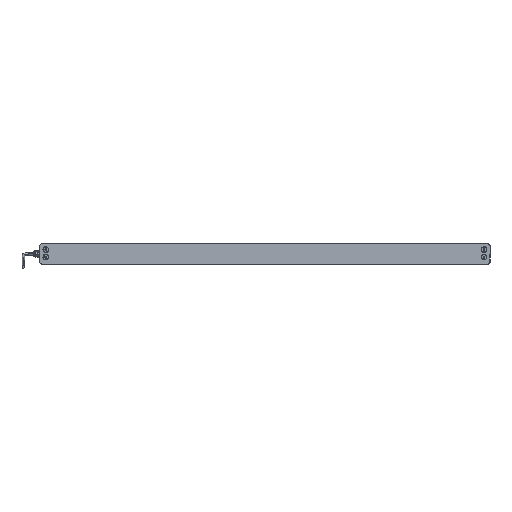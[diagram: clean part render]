
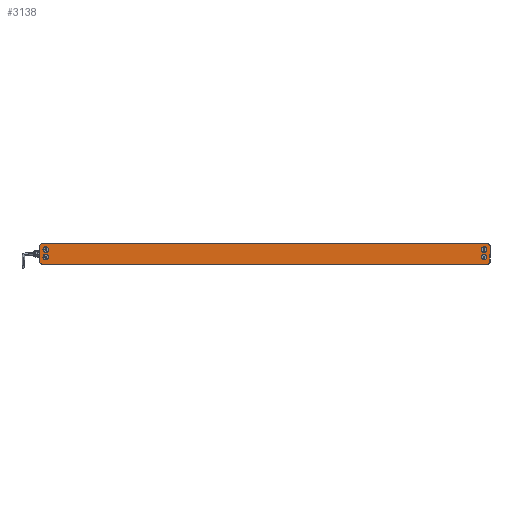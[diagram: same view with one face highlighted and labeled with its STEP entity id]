
A CAD part, left-side view. The second image highlights one B-rep face of the part: STEP entity #3138.
In plain terms, the highlighted planar face has unit normal (-1, 0, 0) as drawn and (0, 0, -1) by its records, which use the part's own axes.
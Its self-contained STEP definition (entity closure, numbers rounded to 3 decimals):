
#62 = VERTEX_POINT ( 'NONE', #16186 ) ;
#114 = CARTESIAN_POINT ( 'NONE',  ( -431.3, -6.3, 0. ) ) ;
#267 = EDGE_CURVE ( 'NONE', #11526, #16595, #3024, .T. ) ;
#511 = EDGE_CURVE ( 'NONE', #4001, #1930, #8359, .T. ) ;
#625 = EDGE_CURVE ( 'NONE', #14501, #6773, #2215, .T. ) ;
#700 = CARTESIAN_POINT ( 'NONE',  ( 436.9, -6.3, 0. ) ) ;
#813 = CARTESIAN_POINT ( 'NONE',  ( 439., 16., 0. ) ) ;
#848 = DIRECTION ( 'NONE',  ( 0., 1., 0. ) ) ;
#1029 = DIRECTION ( 'NONE',  ( -1., 0., 0. ) ) ;
#1325 = DIRECTION ( 'NONE',  ( 1., 0., 0. ) ) ;
#1553 = ORIENTED_EDGE ( 'NONE', *, *, #10247, .F. ) ;
#1802 = DIRECTION ( 'NONE',  ( -1., 0., 0. ) ) ;
#1930 = VERTEX_POINT ( 'NONE', #7038 ) ;
#1994 = CARTESIAN_POINT ( 'NONE',  ( 439., -20., 0. ) ) ;
#2096 = PLANE ( 'NONE',  #12843 ) ;
#2179 = VERTEX_POINT ( 'NONE', #3043 ) ;
#2215 = LINE ( 'NONE', #2448, #13490 ) ;
#2396 = CARTESIAN_POINT ( 'NONE',  ( 425.7, -6.3, 0. ) ) ;
#2419 = DIRECTION ( 'NONE',  ( 1., 0., 0. ) ) ;
#2448 = CARTESIAN_POINT ( 'NONE',  ( 443., -16., 0. ) ) ;
#2604 = ORIENTED_EDGE ( 'NONE', *, *, #4150, .F. ) ;
#2781 = CARTESIAN_POINT ( 'NONE',  ( 431.3, 8.5, 0. ) ) ;
#2973 = EDGE_CURVE ( 'NONE', #1930, #11526, #12295, .T. ) ;
#3024 = LINE ( 'NONE', #14866, #11020 ) ;
#3043 = CARTESIAN_POINT ( 'NONE',  ( 436.9, 8.5, 0. ) ) ;
#3138 = ADVANCED_FACE ( 'NONE', ( #9887, #4680, #12330, #11127, #9810 ), #2096, .T. ) ;
#3160 = ORIENTED_EDGE ( 'NONE', *, *, #3301, .F. ) ;
#3301 = EDGE_CURVE ( 'NONE', #5648, #12437, #6712, .T. ) ;
#3327 = CARTESIAN_POINT ( 'NONE',  ( -439., 20., 0. ) ) ;
#3347 = CIRCLE ( 'NONE', #14393, 5.6 ) ;
#3357 = EDGE_CURVE ( 'NONE', #5787, #8617, #5915, .T. ) ;
#3521 = VECTOR ( 'NONE', #1325, 1000. ) ;
#3524 = VERTEX_POINT ( 'NONE', #1994 ) ;
#3754 = DIRECTION ( 'NONE',  ( 0., 0., 1. ) ) ;
#3792 = EDGE_CURVE ( 'NONE', #62, #3524, #17045, .T. ) ;
#3829 = AXIS2_PLACEMENT_3D ( 'NONE', #11109, #11189, #7174 ) ;
#3931 = ORIENTED_EDGE ( 'NONE', *, *, #3357, .F. ) ;
#4001 = VERTEX_POINT ( 'NONE', #11866 ) ;
#4150 = EDGE_CURVE ( 'NONE', #3524, #14501, #5473, .T. ) ;
#4519 = DIRECTION ( 'NONE',  ( 0., 0., -1. ) ) ;
#4680 = FACE_BOUND ( 'NONE', #6191, .T. ) ;
#4705 = EDGE_CURVE ( 'NONE', #2179, #10638, #14860, .T. ) ;
#4814 = AXIS2_PLACEMENT_3D ( 'NONE', #9129, #5217, #10344 ) ;
#4976 = CARTESIAN_POINT ( 'NONE',  ( 425.7, 8.5, 0. ) ) ;
#5059 = DIRECTION ( 'NONE',  ( -1., 0., 0. ) ) ;
#5117 = CARTESIAN_POINT ( 'NONE',  ( -439., -16., 0. ) ) ;
#5210 = CARTESIAN_POINT ( 'NONE',  ( -439., -20., 0. ) ) ;
#5213 = AXIS2_PLACEMENT_3D ( 'NONE', #15475, #14273, #2419 ) ;
#5217 = DIRECTION ( 'NONE',  ( 0., 0., 1. ) ) ;
#5251 = EDGE_CURVE ( 'NONE', #12437, #5648, #10208, .T. ) ;
#5473 = CIRCLE ( 'NONE', #5213, 4. ) ;
#5648 = VERTEX_POINT ( 'NONE', #2396 ) ;
#5787 = VERTEX_POINT ( 'NONE', #9413 ) ;
#5915 = CIRCLE ( 'NONE', #6988, 5.6 ) ;
#6007 = EDGE_CURVE ( 'NONE', #6773, #4001, #12710, .T. ) ;
#6168 = CARTESIAN_POINT ( 'NONE',  ( 431.3, -6.3, 0. ) ) ;
#6191 = EDGE_LOOP ( 'NONE', ( #3160, #8208 ) ) ;
#6200 = DIRECTION ( 'NONE',  ( 0., 0., -1. ) ) ;
#6281 = EDGE_LOOP ( 'NONE', ( #1553, #13930 ) ) ;
#6448 = CARTESIAN_POINT ( 'NONE',  ( 431.3, 8.5, 0. ) ) ;
#6661 = CARTESIAN_POINT ( 'NONE',  ( -431.3, 8.5, 0. ) ) ;
#6712 = CIRCLE ( 'NONE', #16368, 5.6 ) ;
#6773 = VERTEX_POINT ( 'NONE', #7060 ) ;
#6988 = AXIS2_PLACEMENT_3D ( 'NONE', #6661, #12049, #9449 ) ;
#7038 = CARTESIAN_POINT ( 'NONE',  ( -439., 20., 0. ) ) ;
#7060 = CARTESIAN_POINT ( 'NONE',  ( 443., 16., 0. ) ) ;
#7174 = DIRECTION ( 'NONE',  ( -1., 0., 0. ) ) ;
#7267 = ORIENTED_EDGE ( 'NONE', *, *, #625, .F. ) ;
#7872 = ORIENTED_EDGE ( 'NONE', *, *, #267, .F. ) ;
#8146 = VERTEX_POINT ( 'NONE', #10591 ) ;
#8208 = ORIENTED_EDGE ( 'NONE', *, *, #5251, .F. ) ;
#8359 = LINE ( 'NONE', #3327, #16234 ) ;
#8368 = CARTESIAN_POINT ( 'NONE',  ( -431.3, -6.3, 0. ) ) ;
#8617 = VERTEX_POINT ( 'NONE', #9757 ) ;
#8851 = AXIS2_PLACEMENT_3D ( 'NONE', #6448, #6200, #10273 ) ;
#9125 = DIRECTION ( 'NONE',  ( 0., 0., -1. ) ) ;
#9129 = CARTESIAN_POINT ( 'NONE',  ( -439., 16., 0. ) ) ;
#9317 = ORIENTED_EDGE ( 'NONE', *, *, #6007, .F. ) ;
#9360 = AXIS2_PLACEMENT_3D ( 'NONE', #2781, #13361, #1029 ) ;
#9413 = CARTESIAN_POINT ( 'NONE',  ( -425.7, 8.5, 0. ) ) ;
#9418 = ORIENTED_EDGE ( 'NONE', *, *, #2973, .F. ) ;
#9449 = DIRECTION ( 'NONE',  ( -1., 0., 0. ) ) ;
#9632 = CARTESIAN_POINT ( 'NONE',  ( -443., -16., 0. ) ) ;
#9701 = DIRECTION ( 'NONE',  ( 0., -1., 0. ) ) ;
#9757 = CARTESIAN_POINT ( 'NONE',  ( -436.9, 8.5, 0. ) ) ;
#9810 = FACE_OUTER_BOUND ( 'NONE', #12565, .T. ) ;
#9833 = ORIENTED_EDGE ( 'NONE', *, *, #3792, .F. ) ;
#9849 = DIRECTION ( 'NONE',  ( 0., 0., -1. ) ) ;
#9887 = FACE_BOUND ( 'NONE', #16111, .T. ) ;
#9917 = DIRECTION ( 'NONE',  ( -1., 0., 0. ) ) ;
#9978 = DIRECTION ( 'NONE',  ( -1., 0., 0. ) ) ;
#10072 = CIRCLE ( 'NONE', #16401, 4. ) ;
#10208 = CIRCLE ( 'NONE', #3829, 5.6 ) ;
#10247 = EDGE_CURVE ( 'NONE', #8146, #10835, #14412, .T. ) ;
#10273 = DIRECTION ( 'NONE',  ( -1., 0., 0. ) ) ;
#10344 = DIRECTION ( 'NONE',  ( -1., 0., 0. ) ) ;
#10430 = CARTESIAN_POINT ( 'NONE',  ( 439., 16., 0. ) ) ;
#10591 = CARTESIAN_POINT ( 'NONE',  ( -436.9, -6.3, 0. ) ) ;
#10638 = VERTEX_POINT ( 'NONE', #4976 ) ;
#10658 = EDGE_CURVE ( 'NONE', #10638, #2179, #16276, .T. ) ;
#10762 = CARTESIAN_POINT ( 'NONE',  ( -431.3, 8.5, 0. ) ) ;
#10835 = VERTEX_POINT ( 'NONE', #11629 ) ;
#11020 = VECTOR ( 'NONE', #9701, 1000. ) ;
#11064 = ORIENTED_EDGE ( 'NONE', *, *, #10658, .F. ) ;
#11109 = CARTESIAN_POINT ( 'NONE',  ( 431.3, -6.3, 0. ) ) ;
#11127 = FACE_BOUND ( 'NONE', #6281, .T. ) ;
#11189 = DIRECTION ( 'NONE',  ( 0., 0., -1. ) ) ;
#11399 = AXIS2_PLACEMENT_3D ( 'NONE', #114, #15570, #15821 ) ;
#11456 = DIRECTION ( 'NONE',  ( -1., 0., 0. ) ) ;
#11526 = VERTEX_POINT ( 'NONE', #15539 ) ;
#11629 = CARTESIAN_POINT ( 'NONE',  ( -425.7, -6.3, 0. ) ) ;
#11866 = CARTESIAN_POINT ( 'NONE',  ( 439., 20., 0. ) ) ;
#12049 = DIRECTION ( 'NONE',  ( 0., 0., -1. ) ) ;
#12295 = CIRCLE ( 'NONE', #4814, 4. ) ;
#12330 = FACE_BOUND ( 'NONE', #14561, .T. ) ;
#12437 = VERTEX_POINT ( 'NONE', #700 ) ;
#12565 = EDGE_LOOP ( 'NONE', ( #9317, #7267, #2604, #9833, #13449, #7872, #9418, #15110 ) ) ;
#12710 = CIRCLE ( 'NONE', #14573, 4. ) ;
#12763 = EDGE_CURVE ( 'NONE', #10835, #8146, #3347, .T. ) ;
#12843 = AXIS2_PLACEMENT_3D ( 'NONE', #813, #4519, #9978 ) ;
#12917 = DIRECTION ( 'NONE',  ( -1., 0., 0. ) ) ;
#13322 = EDGE_CURVE ( 'NONE', #8617, #5787, #16626, .T. ) ;
#13361 = DIRECTION ( 'NONE',  ( 0., 0., -1. ) ) ;
#13439 = DIRECTION ( 'NONE',  ( -1., 0., 0. ) ) ;
#13449 = ORIENTED_EDGE ( 'NONE', *, *, #16730, .F. ) ;
#13490 = VECTOR ( 'NONE', #848, 1000. ) ;
#13611 = AXIS2_PLACEMENT_3D ( 'NONE', #10762, #9125, #13439 ) ;
#13930 = ORIENTED_EDGE ( 'NONE', *, *, #12763, .F. ) ;
#14065 = ORIENTED_EDGE ( 'NONE', *, *, #13322, .F. ) ;
#14273 = DIRECTION ( 'NONE',  ( 0., 0., 1. ) ) ;
#14393 = AXIS2_PLACEMENT_3D ( 'NONE', #8368, #9849, #1802 ) ;
#14412 = CIRCLE ( 'NONE', #11399, 5.6 ) ;
#14438 = CARTESIAN_POINT ( 'NONE',  ( 443., -16., 0. ) ) ;
#14501 = VERTEX_POINT ( 'NONE', #14438 ) ;
#14561 = EDGE_LOOP ( 'NONE', ( #14065, #3931 ) ) ;
#14573 = AXIS2_PLACEMENT_3D ( 'NONE', #10430, #3754, #5059 ) ;
#14860 = CIRCLE ( 'NONE', #9360, 5.6 ) ;
#14866 = CARTESIAN_POINT ( 'NONE',  ( -443., -16., 0. ) ) ;
#15110 = ORIENTED_EDGE ( 'NONE', *, *, #511, .F. ) ;
#15475 = CARTESIAN_POINT ( 'NONE',  ( 439., -16., 0. ) ) ;
#15539 = CARTESIAN_POINT ( 'NONE',  ( -443., 16., 0. ) ) ;
#15565 = DIRECTION ( 'NONE',  ( 0., 0., -1. ) ) ;
#15570 = DIRECTION ( 'NONE',  ( 0., 0., -1. ) ) ;
#15821 = DIRECTION ( 'NONE',  ( -1., 0., 0. ) ) ;
#16111 = EDGE_LOOP ( 'NONE', ( #11064, #16790 ) ) ;
#16186 = CARTESIAN_POINT ( 'NONE',  ( -439., -20., 0. ) ) ;
#16234 = VECTOR ( 'NONE', #9917, 1000. ) ;
#16276 = CIRCLE ( 'NONE', #8851, 5.6 ) ;
#16368 = AXIS2_PLACEMENT_3D ( 'NONE', #6168, #15565, #12917 ) ;
#16401 = AXIS2_PLACEMENT_3D ( 'NONE', #5117, #16952, #11456 ) ;
#16595 = VERTEX_POINT ( 'NONE', #9632 ) ;
#16626 = CIRCLE ( 'NONE', #13611, 5.6 ) ;
#16730 = EDGE_CURVE ( 'NONE', #16595, #62, #10072, .T. ) ;
#16790 = ORIENTED_EDGE ( 'NONE', *, *, #4705, .F. ) ;
#16952 = DIRECTION ( 'NONE',  ( 0., 0., 1. ) ) ;
#17045 = LINE ( 'NONE', #5210, #3521 ) ;
